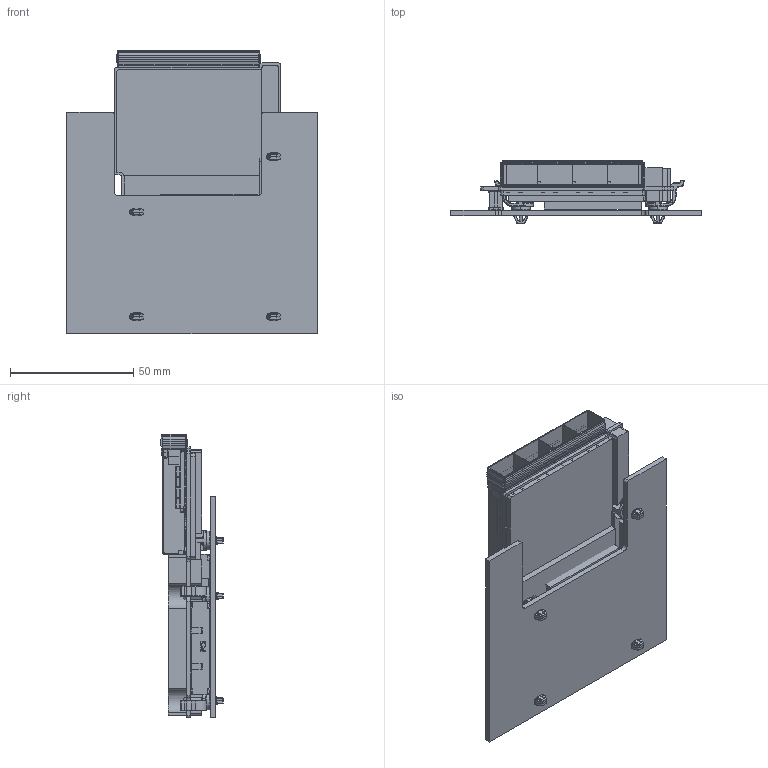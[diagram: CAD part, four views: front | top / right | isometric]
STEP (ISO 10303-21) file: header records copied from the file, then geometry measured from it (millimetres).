
FILE_DESCRIPTION((''),'2;1');
FILE_NAME('OCP-MZ-2_0-BD-ASSY_1X4SFP_8MM_ASM','2015-10-23T',('95030616'),(''),'PRO/ENGINEER BY PARAMETRIC TECHNOLOGY CORPORATION, 2013040','PRO/ENGINEER BY PARAMETRIC TECHNOLOGY CORPORATION, 2013040','');
FILE_SCHEMA(('AUTOMOTIVE_DESIGN { 1 0 10303 214 1 1 1 1 }'));
Products named in the file (21): OCP-2_0-BOARD_2; FCI-P61083-124X2XXX_2; FCI_61083_084402LF_LEOPARD_E1; F01-LED-EVERLIGHT; CM-74754-0420-395450; TOP-KEEPOUT-4_5MM; TOP-KEEPOUT-4_5MM-3; TOP-KEEPOUT-7_5MM; TOP-KEEPOUT-4MM; TOP-KEEPOUT-4MM-2; TOP-KEEPOUT-7_5MM-2; BTM-KEEPOUT-2MM; PORTION_MB_LEOPARD_E1_FILLED; FCI_61082_081402LF_LEOPARD_E1; CN120_GPN2_0-8_SMD_H_F-E1; 64POS-REC1; ASSY_PORTION_MB_LEOPARD_E1_ASM__ASM; F06-MEZZ-LATCH-LEFT-8MM; F06-MEZZ-LATCH-RIGHT-8MM; TOP-KEEPOUT-4_5MM-2; OCP-MZ-2_0-BD-ASSY_1X4SFP_8MM_ASM
Assembly tree (29 placements, depth 3):
  OCP-MZ-2_0-BD-ASSY_1X4SFP_8MM_ASM
    OCP-2_0-BOARD_2
    FCI-P61083-124X2XXX_2
    FCI_61083_084402LF_LEOPARD_E1
    F01-LED-EVERLIGHT  x8
    CM-74754-0420-395450
    TOP-KEEPOUT-4_5MM
    TOP-KEEPOUT-4_5MM-3
    TOP-KEEPOUT-7_5MM
    TOP-KEEPOUT-4MM
    TOP-KEEPOUT-4MM-2
    TOP-KEEPOUT-7_5MM-2
    BTM-KEEPOUT-2MM
    ASSY_PORTION_MB_LEOPARD_E1_ASM__ASM
      PORTION_MB_LEOPARD_E1_FILLED
      FCI_61082_081402LF_LEOPARD_E1
      CN120_GPN2_0-8_SMD_H_F-E1
      64POS-REC1
    F06-MEZZ-LATCH-LEFT-8MM
    F06-MEZZ-LATCH-RIGHT-8MM  x3
    TOP-KEEPOUT-4_5MM-2
Bounding box: 101.72 x 25.4 x 115.25 mm (x, y, z)
Volume: 105563.9 mm3; surface area: 90755.4 mm2
Topology: 27 solids, 29 shells, 8726 faces, 24400 edges, 15382 vertices
Faces by surface type: plane 7058, cylinder 1023, bspline 363, cone 126, sphere 124, torus 32
Entity records: 313879 total; most frequent: CARTESIAN_POINT 58039, ORIENTED_EDGE 45528, DIRECTION 39347, EDGE_CURVE 22764, VECTOR 20483, LINE 20483, VERTEX_POINT 14444, PRESENTATION_STYLE_ASSIGNMENT 12643
